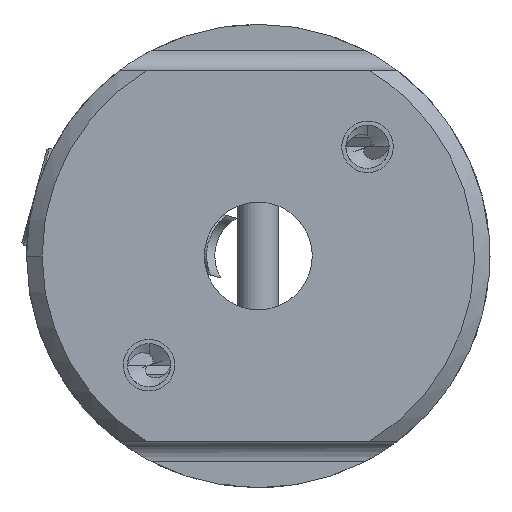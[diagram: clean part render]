
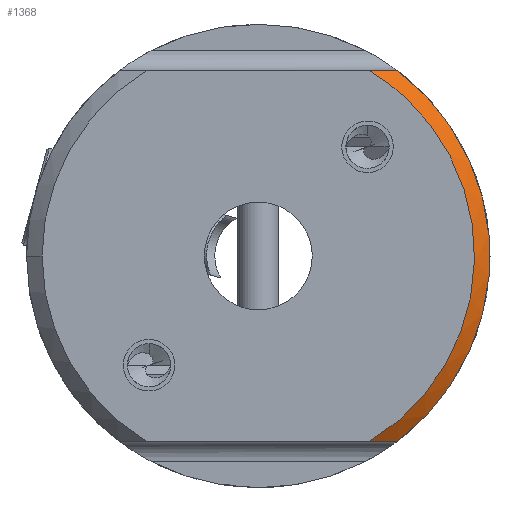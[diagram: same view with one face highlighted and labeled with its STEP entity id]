
A CAD part, left-side view. The second image highlights one B-rep face of the part: STEP entity #1368.
In plain terms, the highlighted conical face has half-angle 45 degrees and reference radius 21 mm.
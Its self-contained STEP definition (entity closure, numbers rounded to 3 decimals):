
#56 = CARTESIAN_POINT ( 'NONE',  ( -25.13, -7.003, 14.046 ) ) ;
#295 = CARTESIAN_POINT ( 'NONE',  ( -25.13, -1.519, 18.684 ) ) ;
#675 = CARTESIAN_POINT ( 'NONE',  ( -25.13, -7.003, -12.678 ) ) ;
#702 = CARTESIAN_POINT ( 'NONE',  ( -25.13, -3.064, 17.756 ) ) ;
#804 = EDGE_LOOP ( 'NONE', ( #1974, #3995, #4158, #6522 ) ) ;
#1304 = DIRECTION ( 'NONE',  ( 0., 0., -1. ) ) ;
#1349 = CARTESIAN_POINT ( 'NONE',  ( -25.13, -9.867, -8.088 ) ) ;
#1368 = ADVANCED_FACE ( 'NONE', ( #8305 ), #6338, .F. ) ;
#1426 = B_SPLINE_CURVE_WITH_KNOTS ( 'NONE', 3,
 ( #4247, #8202, #2301, #6894 ),
 .UNSPECIFIED., .F., .F.,
 ( 4, 4 ),
 ( 0., 1. ),
 .UNSPECIFIED. ) ;
#1571 = CARTESIAN_POINT ( 'NONE',  ( -25.13, -1.519, 18.684 ) ) ;
#1909 = EDGE_CURVE ( 'NONE', #3984, #8429, #7207, .T. ) ;
#1974 = ORIENTED_EDGE ( 'NONE', *, *, #8411, .F. ) ;
#2034 = CARTESIAN_POINT ( 'NONE',  ( -25.13, -11.469, -2.92 ) ) ;
#2085 = CARTESIAN_POINT ( 'NONE',  ( -23.63, -4.202, 18.684 ) ) ;
#2301 = CARTESIAN_POINT ( 'NONE',  ( -24.679, -2.394, -17.316 ) ) ;
#2382 = CARTESIAN_POINT ( 'NONE',  ( -23.63, 9.298, 0.684 ) ) ;
#2694 = CARTESIAN_POINT ( 'NONE',  ( -25.13, -11.702, 2.486 ) ) ;
#3033 = DIRECTION ( 'NONE',  ( 0., 0., 1. ) ) ;
#3350 = CARTESIAN_POINT ( 'NONE',  ( -25.13, -10.552, 7.773 ) ) ;
#3619 = CARTESIAN_POINT ( 'NONE',  ( -23.63, -4.202, -17.316 ) ) ;
#3676 = AXIS2_PLACEMENT_3D ( 'NONE', #3920, #5969, #1304 ) ;
#3920 = CARTESIAN_POINT ( 'NONE',  ( -25.13, 9.298, 0.684 ) ) ;
#3939 = CARTESIAN_POINT ( 'NONE',  ( -25.13, -4.488, -15.26 ) ) ;
#3977 = CARTESIAN_POINT ( 'NONE',  ( -25.13, -3.064, -16.388 ) ) ;
#3984 = VERTEX_POINT ( 'NONE', #7285 ) ;
#3995 = ORIENTED_EDGE ( 'NONE', *, *, #5765, .F. ) ;
#3998 = CARTESIAN_POINT ( 'NONE',  ( -25.13, -8.093, 12.593 ) ) ;
#4158 = ORIENTED_EDGE ( 'NONE', *, *, #4256, .T. ) ;
#4191 = CARTESIAN_POINT ( 'NONE',  ( -23.63, -4.202, 18.684 ) ) ;
#4247 = CARTESIAN_POINT ( 'NONE',  ( -23.63, -4.202, -17.316 ) ) ;
#4256 = EDGE_CURVE ( 'NONE', #6648, #3984, #1426, .T. ) ;
#4332 = AXIS2_PLACEMENT_3D ( 'NONE', #2382, #6965, #3033 ) ;
#4627 = CARTESIAN_POINT ( 'NONE',  ( -25.13, -1.519, -17.316 ) ) ;
#4653 = CARTESIAN_POINT ( 'NONE',  ( -25.13, -4.488, 16.628 ) ) ;
#5304 = CARTESIAN_POINT ( 'NONE',  ( -25.13, -8.093, -11.225 ) ) ;
#5343 = CARTESIAN_POINT ( 'NONE',  ( -25.13, -1.519, 18.684 ) ) ;
#5536 = CARTESIAN_POINT ( 'NONE',  ( -24.685, -2.383, 18.684 ) ) ;
#5765 = EDGE_CURVE ( 'NONE', #6648, #7381, #7016, .T. ) ;
#5961 = CARTESIAN_POINT ( 'NONE',  ( -25.13, -10.552, -6.405 ) ) ;
#5969 = DIRECTION ( 'NONE',  ( 1., 0., 0. ) ) ;
#6338 = CONICAL_SURFACE ( 'NONE', #3676, 21., 0.785 ) ;
#6522 = ORIENTED_EDGE ( 'NONE', *, *, #1909, .T. ) ;
#6611 = CARTESIAN_POINT ( 'NONE',  ( -25.13, -11.702, -1.118 ) ) ;
#6648 = VERTEX_POINT ( 'NONE', #3619 ) ;
#6737 = B_SPLINE_CURVE_WITH_KNOTS ( 'NONE', 3,
 ( #4191, #6802, #5536, #1571 ),
 .UNSPECIFIED., .F., .F.,
 ( 4, 4 ),
 ( 0., 1. ),
 .UNSPECIFIED. ) ;
#6802 = CARTESIAN_POINT ( 'NONE',  ( -24.185, -3.277, 18.684 ) ) ;
#6894 = CARTESIAN_POINT ( 'NONE',  ( -25.13, -1.519, -17.316 ) ) ;
#6965 = DIRECTION ( 'NONE',  ( -1., 0., 0. ) ) ;
#7016 = CIRCLE ( 'NONE', #4332, 22.5 ) ;
#7207 = B_SPLINE_CURVE_WITH_KNOTS ( 'NONE', 3,
 ( #4627, #3977, #3939, #675, #5304, #1349, #5961, #2034, #6611, #2694, #7274, #3350, #7944, #3998, #56, #4653, #702, #5343 ),
 .UNSPECIFIED., .F., .F.,
 ( 4, 2, 2, 2, 2, 2, 2, 2, 4 ),
 ( 0., 0.125, 0.25, 0.375, 0.5, 0.625, 0.75, 0.875, 1. ),
 .UNSPECIFIED. ) ;
#7274 = CARTESIAN_POINT ( 'NONE',  ( -25.13, -11.469, 4.288 ) ) ;
#7285 = CARTESIAN_POINT ( 'NONE',  ( -25.13, -1.519, -17.316 ) ) ;
#7381 = VERTEX_POINT ( 'NONE', #2085 ) ;
#7944 = CARTESIAN_POINT ( 'NONE',  ( -25.13, -9.867, 9.456 ) ) ;
#8202 = CARTESIAN_POINT ( 'NONE',  ( -24.179, -3.287, -17.316 ) ) ;
#8305 = FACE_OUTER_BOUND ( 'NONE', #804, .T. ) ;
#8411 = EDGE_CURVE ( 'NONE', #7381, #8429, #6737, .T. ) ;
#8429 = VERTEX_POINT ( 'NONE', #295 ) ;
